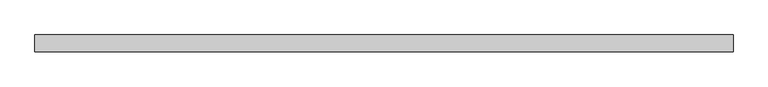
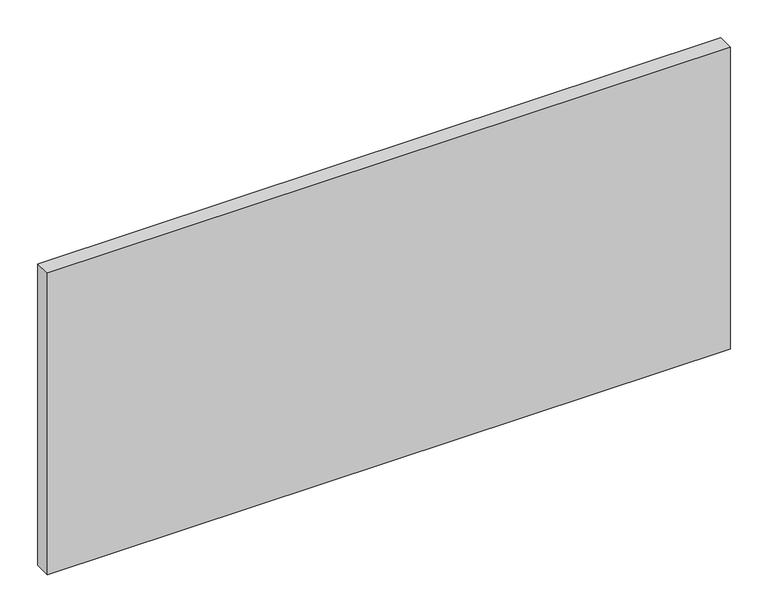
"""IFC4 building model written with IfcOpenShell, lengths in millimetres: plate geometry, Системная панель : ADSK_Cтеклопакет_25 мм."""

from ifc_helpers import new_model, si_unit, origin, origin_with_axes, place, context, project, spatial, polyline, outline, extrude, source, transform, mapped, element, save


def plate_505dbdeb(model_context):
    return source(origin(), model_context, "Body", "SweptSolid", [
        extrude(outline(polyline([(518.75, -12.5), (-518.75, -12.5), (-518.75, 12.5), (518.75, 12.5), (518.75, -12.5)])), origin_with_axes(), (0.0, 0.0, 1.0), 485.0),
    ])


if __name__ == "__main__":
    model = new_model("IFC4")
    model_context = context("Model", 3, world=origin())
    ifc_project = project(units=[si_unit("LENGTHUNIT", "METRE", prefix="MILLI")], contexts=[model_context])
    site = spatial("IfcSite", under=ifc_project)
    building = spatial("IfcBuilding", under=site)
    placement = place(None, origin())
    plate_shape = plate_505dbdeb(model_context)
    element("IfcPlate", 1, ObjectType="Системная панель : ADSK_Cтеклопакет_25 мм", at=placement, inside=building, context=model_context, shape_type="MappedRepresentation", body=[
        mapped(plate_shape, transform((0.0, 0.0, 0.0), x_axis=(1.0, 0.0, 0.0), y_axis=(0.0, 1.0, 0.0), z_axis=(0.0, 0.0, 1.0))),
    ])
    save(model, "model.ifc")
